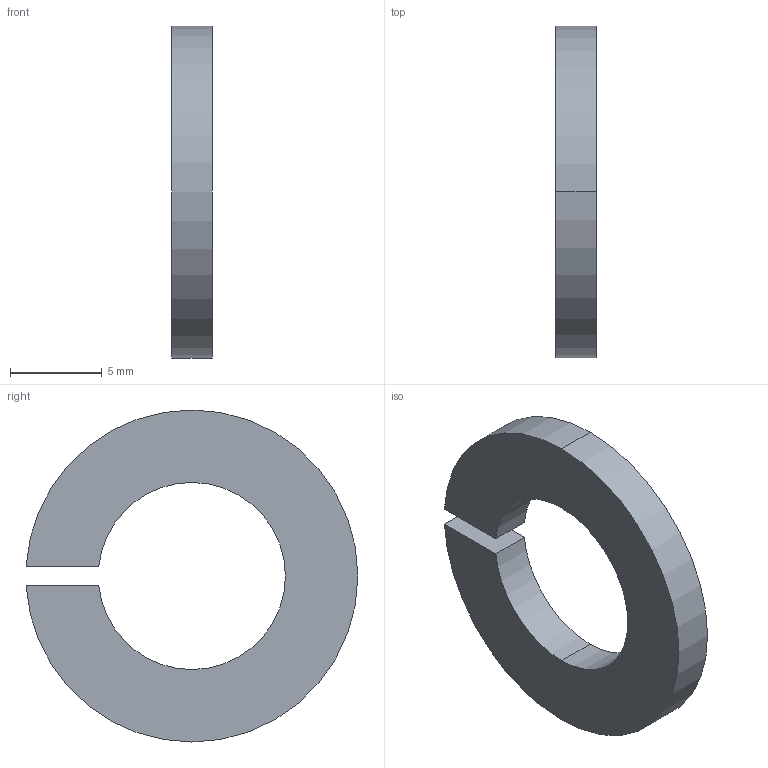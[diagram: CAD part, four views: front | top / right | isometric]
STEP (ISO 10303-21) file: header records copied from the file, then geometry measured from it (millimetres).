
FILE_DESCRIPTION (( 'STEP AP214' ), '1' );
FILE_NAME ('N600051_0_stp_Federring_B10_DIN127.STEP', '2018-07-04T06:13:41', ( '' ), ( '' ), 'SwSTEP 2.0', 'SolidWorks 2017', '' );
FILE_SCHEMA (( 'AUTOMOTIVE_DESIGN' ));
Length unit declared in the file: millimetre
Products named in the file (1): N600051_0_stp_Federring_B10_DIN127
Bounding box: 2.2 x 18.09 x 18.1 mm (x, y, z)
Volume: 377.6 mm3; surface area: 551.9 mm2
Topology: 1 solids, 1 shells, 10 faces, 24 edges, 16 vertices
Faces by surface type: cylinder 6, plane 4
Entity records: 334 total; most frequent: DIRECTION 58, CARTESIAN_POINT 51, ORIENTED_EDGE 48, EDGE_CURVE 24, AXIS2_PLACEMENT_3D 23, VERTEX_POINT 16, LINE 12, VECTOR 12
